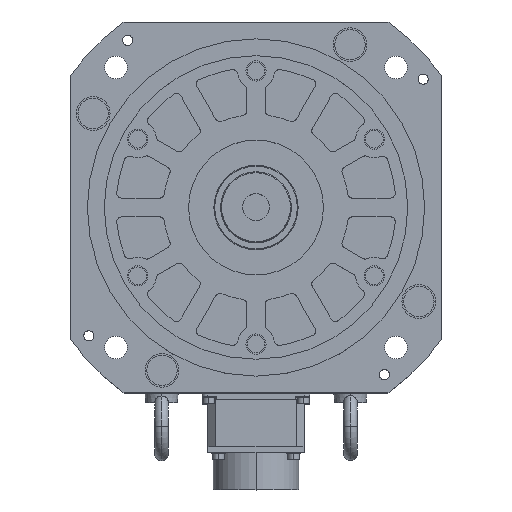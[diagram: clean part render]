
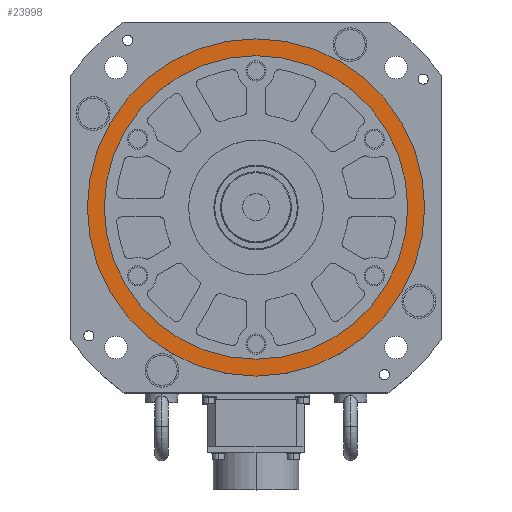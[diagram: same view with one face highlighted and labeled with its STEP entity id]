
A CAD part, top view. The second image highlights one B-rep face of the part: STEP entity #23998.
In plain terms, the highlighted planar face has unit normal (0, 0, 1).
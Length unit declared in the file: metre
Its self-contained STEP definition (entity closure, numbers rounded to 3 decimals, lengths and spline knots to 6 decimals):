
#571 = DIRECTION ( 'NONE',  ( 1., 0., 0. ) ) ;
#695 = CARTESIAN_POINT ( 'NONE',  ( -0.10001, -0.10001, 0.004 ) ) ;
#1476 = CARTESIAN_POINT ( 'NONE',  ( 0.1, 0., 0.004 ) ) ;
#1610 = DIRECTION ( 'NONE',  ( 1., 0., 0. ) ) ;
#1753 = CARTESIAN_POINT ( 'NONE',  ( 0., 0., 0.004 ) ) ;
#1790 = DIRECTION ( 'NONE',  ( 0., 0., -1. ) ) ;
#2732 = CARTESIAN_POINT ( 'NONE',  ( -0.1, 0., 0.004 ) ) ;
#4326 = VERTEX_POINT ( 'NONE', #19506 ) ;
#5280 = DIRECTION ( 'NONE',  ( 0., 0., -1. ) ) ;
#7413 = DIRECTION ( 'NONE',  ( 1., 0., 0. ) ) ;
#8006 = EDGE_CURVE ( 'NONE', #14702, #30150, #17327, .T. ) ;
#10276 = VERTEX_POINT ( 'NONE', #28019 ) ;
#10947 = FACE_BOUND ( 'NONE', #22578, .T. ) ;
#11283 = DIRECTION ( 'NONE',  ( 0., 0., -1. ) ) ;
#11347 = AXIS2_PLACEMENT_3D ( 'NONE', #28173, #11283, #14658 ) ;
#11993 = DIRECTION ( 'NONE',  ( 1., 0., 0. ) ) ;
#13566 = DIRECTION ( 'NONE',  ( 0., 0., -1. ) ) ;
#14262 = DIRECTION ( 'NONE',  ( 0., 0., 1. ) ) ;
#14658 = DIRECTION ( 'NONE',  ( 1., 0., 0. ) ) ;
#14702 = VERTEX_POINT ( 'NONE', #1476 ) ;
#15051 = CARTESIAN_POINT ( 'NONE',  ( 0., 0., 0.004 ) ) ;
#16798 = CIRCLE ( 'NONE', #33537, 0.1 ) ;
#17327 = CIRCLE ( 'NONE', #34224, 0.1 ) ;
#18644 = EDGE_CURVE ( 'NONE', #30150, #14702, #16798, .T. ) ;
#19506 = CARTESIAN_POINT ( 'NONE',  ( -0.09, 0., 0.004 ) ) ;
#19525 = ORIENTED_EDGE ( 'NONE', *, *, #18644, .F. ) ;
#20632 = EDGE_LOOP ( 'NONE', ( #29004, #19525 ) ) ;
#21122 = CIRCLE ( 'NONE', #42042, 0.09 ) ;
#22578 = EDGE_LOOP ( 'NONE', ( #28217, #31863 ) ) ;
#22950 = FACE_OUTER_BOUND ( 'NONE', #20632, .T. ) ;
#23998 = ADVANCED_FACE ( 'NONE', ( #10947, #22950 ), #40041, .T. ) ;
#28019 = CARTESIAN_POINT ( 'NONE',  ( 0.09, 0., 0.004 ) ) ;
#28173 = CARTESIAN_POINT ( 'NONE',  ( 0., 0., 0.004 ) ) ;
#28217 = ORIENTED_EDGE ( 'NONE', *, *, #39236, .T. ) ;
#29004 = ORIENTED_EDGE ( 'NONE', *, *, #8006, .F. ) ;
#29527 = AXIS2_PLACEMENT_3D ( 'NONE', #695, #14262, #7413 ) ;
#30150 = VERTEX_POINT ( 'NONE', #2732 ) ;
#31863 = ORIENTED_EDGE ( 'NONE', *, *, #38937, .T. ) ;
#33537 = AXIS2_PLACEMENT_3D ( 'NONE', #1753, #5280, #1610 ) ;
#34224 = AXIS2_PLACEMENT_3D ( 'NONE', #15051, #1790, #11993 ) ;
#38937 = EDGE_CURVE ( 'NONE', #4326, #10276, #41451, .T. ) ;
#39236 = EDGE_CURVE ( 'NONE', #10276, #4326, #21122, .T. ) ;
#40041 = PLANE ( 'NONE',  #29527 ) ;
#40474 = CARTESIAN_POINT ( 'NONE',  ( 0., 0., 0.004 ) ) ;
#41451 = CIRCLE ( 'NONE', #11347, 0.09 ) ;
#42042 = AXIS2_PLACEMENT_3D ( 'NONE', #40474, #13566, #571 ) ;
